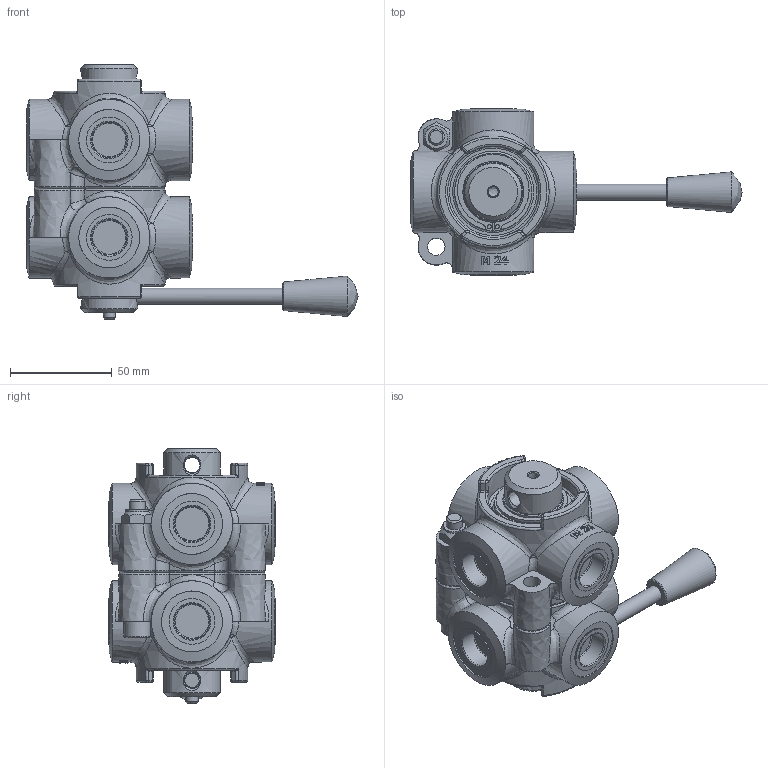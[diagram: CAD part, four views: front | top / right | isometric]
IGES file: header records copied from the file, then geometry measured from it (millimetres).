
Global section: file name: No Iges File Name specified; native system: Autodesk Inventor 2013; preprocessor: AutoDesk Inventor Iges Exporter R2013; author: christian.scardovi; date: 20240830.082040; units: millimetre
Bounding box: 163.5 x 82 x 125.25 mm (x, y, z)
Volume: 408752.4 mm3; surface area: 58026.8 mm2
Topology: 1 solids, 1 shells, 508 faces, 1209 edges, 719 vertices
Faces by surface type: bspline 508
